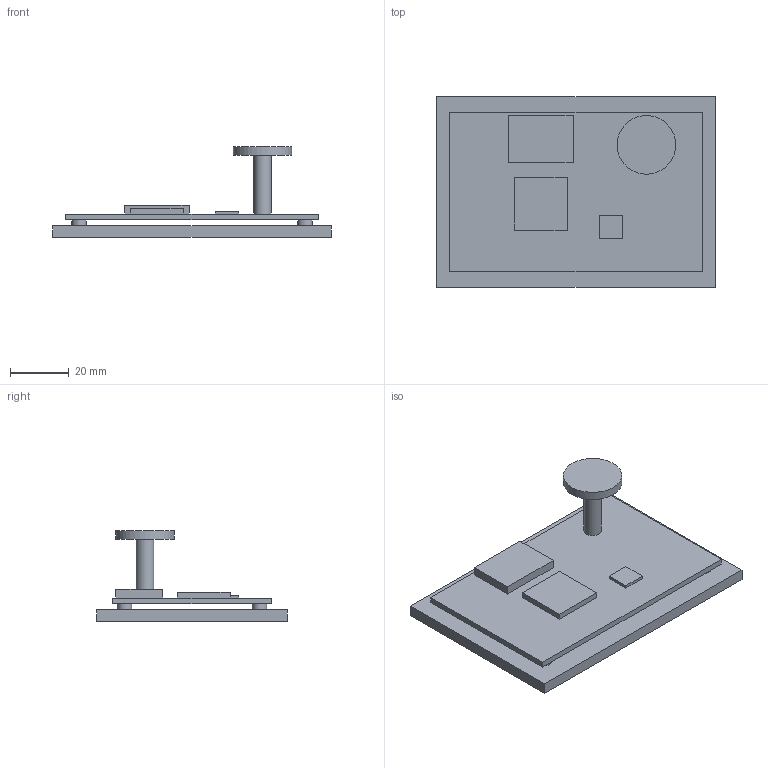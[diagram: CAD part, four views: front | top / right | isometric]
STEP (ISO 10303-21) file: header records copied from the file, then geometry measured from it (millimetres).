
FILE_DESCRIPTION(('FreeCAD Model'),'2;1');
FILE_NAME('Open CASCADE Shape Model','2026-10-22T00:32:18',('Author'),( ''),'Open CASCADE STEP processor 7.8','FreeCAD','Unknown');
FILE_SCHEMA(('AUTOMOTIVE_DESIGN { 1 0 10303 214 1 1 1 1 }'));
Length unit declared in the file: millimetre
Products named in the file (12): Flight computer 1.1.0; Base plate; Standoff; Standoff 2; Standoff 3; Standoff 4; Circuit board; Main processor; Radio; Motion sensor; GPS mast; GPS antenna
Assembly tree (11 placements, depth 2):
  Flight computer 1.1.0
    Base plate
    Standoff
    Standoff 2
    Standoff 3
    Standoff 4
    Circuit board
    Main processor
    Radio
    Motion sensor
    GPS mast
    GPS antenna
Bounding box: 95 x 65 x 31 mm (x, y, z)
Volume: 37421 mm3; surface area: 26895.1 mm2
Topology: 11 solids, 11 shells, 48 faces, 78 edges, 52 vertices
Faces by surface type: plane 42, cylinder 6
Full cylindrical faces by diameter (mm): 5 x4, 6 x1, 20 x1
Entity records: 1282 total; most frequent: DIRECTION 210, CARTESIAN_POINT 190, ORIENTED_EDGE 156, EDGE_CURVE 78, AXIS2_PLACEMENT_3D 72, LINE 66, VECTOR 66, VERTEX_POINT 52
